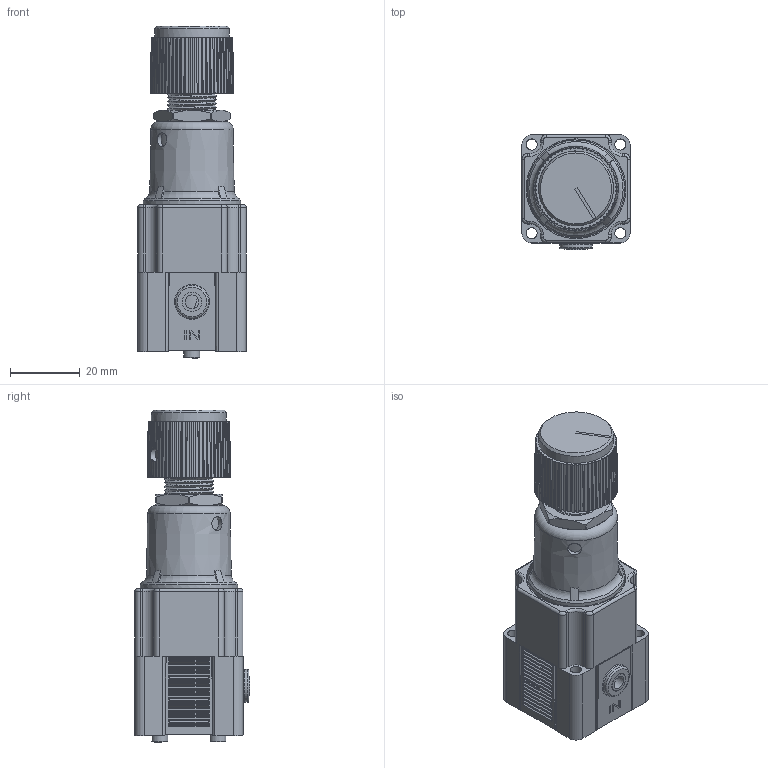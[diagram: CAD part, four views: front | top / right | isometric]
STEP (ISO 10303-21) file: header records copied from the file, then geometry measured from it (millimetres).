
FILE_DESCRIPTION(/* description */ (''),/* implementation_level */ '2;1');
FILE_NAME(/* name */ 'K:\Normteile INVENTOR\Air-Logic\Regulators\R6000\R 6___ 0 10-32 UNF Threads In.igs.ipt.stp',/* time_stamp */ '2020-05-27T10:56:44+02:00',/* author */ ('Paul'),/* organization */ (''),/* preprocessor_version */ 'ST-DEVELOPER v18',/* originating_system */ 'Autodesk Inventor 2020',/* authorisation */ '');
FILE_SCHEMA (('AUTOMOTIVE_DESIGN { 1 0 10303 214 3 1 1 }'));
Length unit declared in the file: inch
Products named in the file (1): R 6___ 0 10-32 UNF Threads In.igs
Bounding box: 31.19 x 32.97 x 95.02 mm (x, y, z)
Volume: 56157.8 mm3; surface area: 17132.8 mm2
Topology: 1 solids, 1 shells, 957 faces, 2470 edges, 1590 vertices
Faces by surface type: plane 471, cylinder 347, cone 83, torus 33, bspline 23
Full cylindrical faces by diameter (mm): 1.194 x1, 2.032 x1, 3.124 x2, 3.175 x8, 3.962 x1, 3.988 x1, 4.064 x1, 4.521 x2, 5.486 x1, 6.248 x1, 8.382 x2, 9.169 x1, 9.398 x1, 9.652 x1, 12.903 x1, 19.406 x1, 21.476 x1, 27.94 x1, 28.575 x1
Entity records: 35343 total; most frequent: CARTESIAN_POINT 10381, DIRECTION 5264, ORIENTED_EDGE 4940, EDGE_CURVE 2470, AXIS2_PLACEMENT_3D 2046, VERTEX_POINT 1590, LINE 1172, VECTOR 1172
